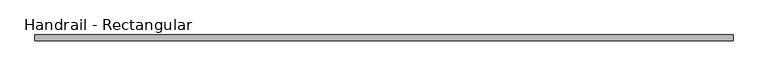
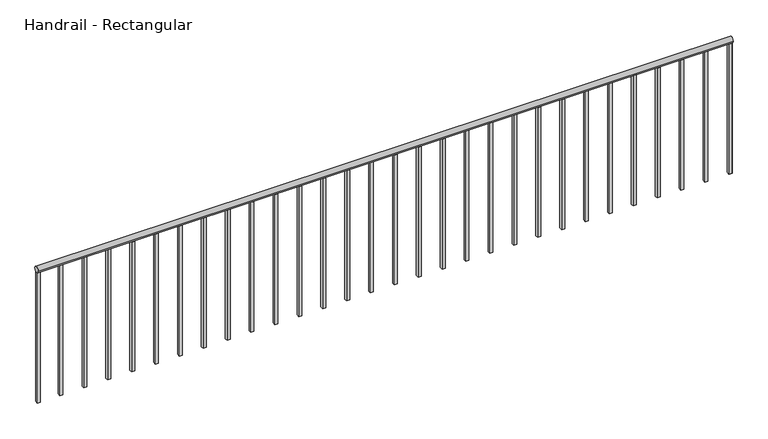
"""IFC4 building model written with IfcOpenShell, lengths in millimetres: railing geometry, Handrail - Rectangular."""

from ifc_helpers import new_model, si_unit, point, frame, frame_2d, origin, place, context, project, spatial, polyline, circle_curve, trimmed, segment, composite_curve, outline, extrude, source, transform, mapped, element, save


def handrail_rectangular_c54c8a6b(model_context):
    return source(origin(), model_context, "Body", "SweptSolid", [
        extrude(outline(composite_curve([segment(trimmed(circle_curve(frame_2d((-35553.1683133, 3943.35)), 19.05), [point((-35572.2183133, 3943.35))], [point((-35534.1183133, 3943.35))], False, "CARTESIAN"), True, "CONTINUOUS"), segment(trimmed(circle_curve(frame_2d((-35553.1683133, 3943.35)), 19.05), [point((-35534.1183133, 3943.35))], [point((-35572.2183133, 3943.35))], False, "CARTESIAN"), True, "CONTINUOUS")], self_intersect=False)), frame((-3862.3589563, 0.0, 0.0), z_axis=(1.0, 0.0, 0.0), x_axis=(0.0, 1.0, 0.0)), (0.0, 0.0, 1.0), 4432.3),
        extrude(outline(polyline([(547.7160437, -35543.6433133), (566.7660437, -35543.6433133), (566.7660437, -35562.6933133), (547.7160437, -35562.6933133), (547.7160437, -35543.6433133)])), frame((0.0, 0.0, 3048.0), z_axis=(0.0, 0.0, 1.0), x_axis=(1.0, 0.0, 0.0)), (0.0, 0.0, 1.0), 876.3),
        extrude(outline(polyline([(395.3160437, -35543.6433133), (414.3660437, -35543.6433133), (414.3660437, -35562.6933133), (395.3160437, -35562.6933133), (395.3160437, -35543.6433133)])), frame((0.0, 0.0, 3048.0), z_axis=(0.0, 0.0, 1.0), x_axis=(1.0, 0.0, 0.0)), (0.0, 0.0, 1.0), 876.3),
        extrude(outline(polyline([(242.9160437, -35543.6433133), (261.9660437, -35543.6433133), (261.9660437, -35562.6933133), (242.9160437, -35562.6933133), (242.9160437, -35543.6433133)])), frame((0.0, 0.0, 3048.0), z_axis=(0.0, 0.0, 1.0), x_axis=(1.0, 0.0, 0.0)), (0.0, 0.0, 1.0), 876.3),
        extrude(outline(polyline([(90.5160437, -35543.6433133), (109.5660437, -35543.6433133), (109.5660437, -35562.6933133), (90.5160437, -35562.6933133), (90.5160437, -35543.6433133)])), frame((0.0, 0.0, 3048.0), z_axis=(0.0, 0.0, 1.0), x_axis=(1.0, 0.0, 0.0)), (0.0, 0.0, 1.0), 876.3),
        extrude(outline(polyline([(-61.8839563, -35543.6433133), (-42.8339563, -35543.6433133), (-42.8339563, -35562.6933133), (-61.8839563, -35562.6933133), (-61.8839563, -35543.6433133)])), frame((0.0, 0.0, 3048.0), z_axis=(0.0, 0.0, 1.0), x_axis=(1.0, 0.0, 0.0)), (0.0, 0.0, 1.0), 876.3),
        extrude(outline(polyline([(-214.2839563, -35543.6433133), (-195.2339563, -35543.6433133), (-195.2339563, -35562.6933133), (-214.2839563, -35562.6933133), (-214.2839563, -35543.6433133)])), frame((0.0, 0.0, 3048.0), z_axis=(0.0, 0.0, 1.0), x_axis=(1.0, 0.0, 0.0)), (0.0, 0.0, 1.0), 876.3),
        extrude(outline(polyline([(-366.6839563, -35543.6433133), (-347.6339563, -35543.6433133), (-347.6339563, -35562.6933133), (-366.6839563, -35562.6933133), (-366.6839563, -35543.6433133)])), frame((0.0, 0.0, 3048.0), z_axis=(0.0, 0.0, 1.0), x_axis=(1.0, 0.0, 0.0)), (0.0, 0.0, 1.0), 876.3),
        extrude(outline(polyline([(-519.0839563, -35543.6433133), (-500.0339563, -35543.6433133), (-500.0339563, -35562.6933133), (-519.0839563, -35562.6933133), (-519.0839563, -35543.6433133)])), frame((0.0, 0.0, 3048.0), z_axis=(0.0, 0.0, 1.0), x_axis=(1.0, 0.0, 0.0)), (0.0, 0.0, 1.0), 876.3),
        extrude(outline(polyline([(-671.4839563, -35543.6433133), (-652.4339563, -35543.6433133), (-652.4339563, -35562.6933133), (-671.4839563, -35562.6933133), (-671.4839563, -35543.6433133)])), frame((0.0, 0.0, 3048.0), z_axis=(0.0, 0.0, 1.0), x_axis=(1.0, 0.0, 0.0)), (0.0, 0.0, 1.0), 876.3),
        extrude(outline(polyline([(-823.8839563, -35543.6433133), (-804.8339563, -35543.6433133), (-804.8339563, -35562.6933133), (-823.8839563, -35562.6933133), (-823.8839563, -35543.6433133)])), frame((0.0, 0.0, 3048.0), z_axis=(0.0, 0.0, 1.0), x_axis=(1.0, 0.0, 0.0)), (0.0, 0.0, 1.0), 876.3),
        extrude(outline(polyline([(-976.2839563, -35543.6433133), (-957.2339563, -35543.6433133), (-957.2339563, -35562.6933133), (-976.2839563, -35562.6933133), (-976.2839563, -35543.6433133)])), frame((0.0, 0.0, 3048.0), z_axis=(0.0, 0.0, 1.0), x_axis=(1.0, 0.0, 0.0)), (0.0, 0.0, 1.0), 876.3),
        extrude(outline(polyline([(-1128.6839563, -35543.6433133), (-1109.6339563, -35543.6433133), (-1109.6339563, -35562.6933133), (-1128.6839563, -35562.6933133), (-1128.6839563, -35543.6433133)])), frame((0.0, 0.0, 3048.0), z_axis=(0.0, 0.0, 1.0), x_axis=(1.0, 0.0, 0.0)), (0.0, 0.0, 1.0), 876.3),
        extrude(outline(polyline([(-1281.0839563, -35543.6433133), (-1262.0339563, -35543.6433133), (-1262.0339563, -35562.6933133), (-1281.0839563, -35562.6933133), (-1281.0839563, -35543.6433133)])), frame((0.0, 0.0, 3048.0), z_axis=(0.0, 0.0, 1.0), x_axis=(1.0, 0.0, 0.0)), (0.0, 0.0, 1.0), 876.3),
        extrude(outline(polyline([(-1433.4839563, -35543.6433133), (-1414.4339563, -35543.6433133), (-1414.4339563, -35562.6933133), (-1433.4839563, -35562.6933133), (-1433.4839563, -35543.6433133)])), frame((0.0, 0.0, 3048.0), z_axis=(0.0, 0.0, 1.0), x_axis=(1.0, 0.0, 0.0)), (0.0, 0.0, 1.0), 876.3),
        extrude(outline(polyline([(-1585.8839563, -35543.6433133), (-1566.8339563, -35543.6433133), (-1566.8339563, -35562.6933133), (-1585.8839563, -35562.6933133), (-1585.8839563, -35543.6433133)])), frame((0.0, 0.0, 3048.0), z_axis=(0.0, 0.0, 1.0), x_axis=(1.0, 0.0, 0.0)), (0.0, 0.0, 1.0), 876.3),
        extrude(outline(polyline([(-1738.2839563, -35543.6433133), (-1719.2339563, -35543.6433133), (-1719.2339563, -35562.6933133), (-1738.2839563, -35562.6933133), (-1738.2839563, -35543.6433133)])), frame((0.0, 0.0, 3048.0), z_axis=(0.0, 0.0, 1.0), x_axis=(1.0, 0.0, 0.0)), (0.0, 0.0, 1.0), 876.3),
        extrude(outline(polyline([(-1890.6839563, -35543.6433133), (-1871.6339563, -35543.6433133), (-1871.6339563, -35562.6933133), (-1890.6839563, -35562.6933133), (-1890.6839563, -35543.6433133)])), frame((0.0, 0.0, 3048.0), z_axis=(0.0, 0.0, 1.0), x_axis=(1.0, 0.0, 0.0)), (0.0, 0.0, 1.0), 876.3),
        extrude(outline(polyline([(-2043.0839563, -35543.6433133), (-2024.0339563, -35543.6433133), (-2024.0339563, -35562.6933133), (-2043.0839563, -35562.6933133), (-2043.0839563, -35543.6433133)])), frame((0.0, 0.0, 3048.0), z_axis=(0.0, 0.0, 1.0), x_axis=(1.0, 0.0, 0.0)), (0.0, 0.0, 1.0), 876.3),
        extrude(outline(polyline([(-2195.4839563, -35543.6433133), (-2176.4339563, -35543.6433133), (-2176.4339563, -35562.6933133), (-2195.4839563, -35562.6933133), (-2195.4839563, -35543.6433133)])), frame((0.0, 0.0, 3048.0), z_axis=(0.0, 0.0, 1.0), x_axis=(1.0, 0.0, 0.0)), (0.0, 0.0, 1.0), 876.3),
        extrude(outline(polyline([(-2347.8839563, -35543.6433133), (-2328.8339563, -35543.6433133), (-2328.8339563, -35562.6933133), (-2347.8839563, -35562.6933133), (-2347.8839563, -35543.6433133)])), frame((0.0, 0.0, 3048.0), z_axis=(0.0, 0.0, 1.0), x_axis=(1.0, 0.0, 0.0)), (0.0, 0.0, 1.0), 876.3),
        extrude(outline(polyline([(-2500.2839563, -35543.6433133), (-2481.2339563, -35543.6433133), (-2481.2339563, -35562.6933133), (-2500.2839563, -35562.6933133), (-2500.2839563, -35543.6433133)])), frame((0.0, 0.0, 3048.0), z_axis=(0.0, 0.0, 1.0), x_axis=(1.0, 0.0, 0.0)), (0.0, 0.0, 1.0), 876.3),
        extrude(outline(polyline([(-2652.6839563, -35543.6433133), (-2633.6339563, -35543.6433133), (-2633.6339563, -35562.6933133), (-2652.6839563, -35562.6933133), (-2652.6839563, -35543.6433133)])), frame((0.0, 0.0, 3048.0), z_axis=(0.0, 0.0, 1.0), x_axis=(1.0, 0.0, 0.0)), (0.0, 0.0, 1.0), 876.3),
        extrude(outline(polyline([(-2805.0839563, -35543.6433133), (-2786.0339563, -35543.6433133), (-2786.0339563, -35562.6933133), (-2805.0839563, -35562.6933133), (-2805.0839563, -35543.6433133)])), frame((0.0, 0.0, 3048.0), z_axis=(0.0, 0.0, 1.0), x_axis=(1.0, 0.0, 0.0)), (0.0, 0.0, 1.0), 876.3),
        extrude(outline(polyline([(-2957.4839563, -35543.6433133), (-2938.4339563, -35543.6433133), (-2938.4339563, -35562.6933133), (-2957.4839563, -35562.6933133), (-2957.4839563, -35543.6433133)])), frame((0.0, 0.0, 3048.0), z_axis=(0.0, 0.0, 1.0), x_axis=(1.0, 0.0, 0.0)), (0.0, 0.0, 1.0), 876.3),
        extrude(outline(polyline([(-3109.8839563, -35543.6433133), (-3090.8339563, -35543.6433133), (-3090.8339563, -35562.6933133), (-3109.8839563, -35562.6933133), (-3109.8839563, -35543.6433133)])), frame((0.0, 0.0, 3048.0), z_axis=(0.0, 0.0, 1.0), x_axis=(1.0, 0.0, 0.0)), (0.0, 0.0, 1.0), 876.3),
        extrude(outline(polyline([(-3262.2839563, -35543.6433133), (-3243.2339563, -35543.6433133), (-3243.2339563, -35562.6933133), (-3262.2839563, -35562.6933133), (-3262.2839563, -35543.6433133)])), frame((0.0, 0.0, 3048.0), z_axis=(0.0, 0.0, 1.0), x_axis=(1.0, 0.0, 0.0)), (0.0, 0.0, 1.0), 876.3),
        extrude(outline(polyline([(-3414.6839563, -35543.6433133), (-3395.6339563, -35543.6433133), (-3395.6339563, -35562.6933133), (-3414.6839563, -35562.6933133), (-3414.6839563, -35543.6433133)])), frame((0.0, 0.0, 3048.0), z_axis=(0.0, 0.0, 1.0), x_axis=(1.0, 0.0, 0.0)), (0.0, 0.0, 1.0), 876.3),
        extrude(outline(polyline([(-3567.0839563, -35543.6433133), (-3548.0339563, -35543.6433133), (-3548.0339563, -35562.6933133), (-3567.0839563, -35562.6933133), (-3567.0839563, -35543.6433133)])), frame((0.0, 0.0, 3048.0), z_axis=(0.0, 0.0, 1.0), x_axis=(1.0, 0.0, 0.0)), (0.0, 0.0, 1.0), 876.3),
        extrude(outline(polyline([(-3719.4839563, -35543.6433133), (-3700.4339563, -35543.6433133), (-3700.4339563, -35562.6933133), (-3719.4839563, -35562.6933133), (-3719.4839563, -35543.6433133)])), frame((0.0, 0.0, 3048.0), z_axis=(0.0, 0.0, 1.0), x_axis=(1.0, 0.0, 0.0)), (0.0, 0.0, 1.0), 876.3),
        extrude(outline(polyline([(550.8910437, -35543.6433133), (569.9410437, -35543.6433133), (569.9410437, -35562.6933133), (550.8910437, -35562.6933133), (550.8910437, -35543.6433133)])), frame((0.0, 0.0, 3048.0), z_axis=(0.0, 0.0, 1.0), x_axis=(1.0, 0.0, 0.0)), (0.0, 0.0, 1.0), 876.3),
        extrude(outline(polyline([(-3862.3589563, -35543.6433133), (-3843.3089563, -35543.6433133), (-3843.3089563, -35562.6933133), (-3862.3589563, -35562.6933133), (-3862.3589563, -35543.6433133)])), frame((0.0, 0.0, 3048.0), z_axis=(0.0, 0.0, 1.0), x_axis=(1.0, 0.0, 0.0)), (0.0, 0.0, 1.0), 876.3),
    ])


if __name__ == "__main__":
    model = new_model("IFC4")
    model_context = context("Model", 3, world=origin())
    ifc_project = project(units=[si_unit("LENGTHUNIT", "METRE", prefix="MILLI")], contexts=[model_context])
    site = spatial("IfcSite", under=ifc_project)
    building = spatial("IfcBuilding", under=site)
    placement = place(None, origin())
    handrail_rectangular_shape = handrail_rectangular_c54c8a6b(model_context)
    element("IfcRailing", 1, ObjectType="Handrail - Rectangular", at=placement, inside=building, context=model_context, shape_type="MappedRepresentation", body=[
        mapped(handrail_rectangular_shape, transform((0.0, 0.0, 0.0), x_axis=(1.0, 0.0, 0.0), y_axis=(0.0, 1.0, 0.0), z_axis=(0.0, 0.0, 1.0))),
    ])
    save(model, "model.ifc")
